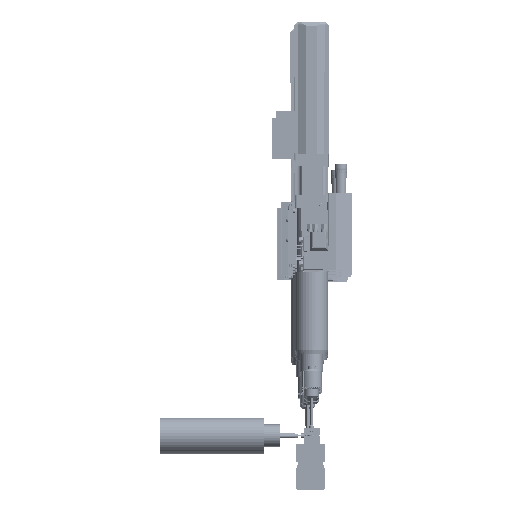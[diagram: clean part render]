
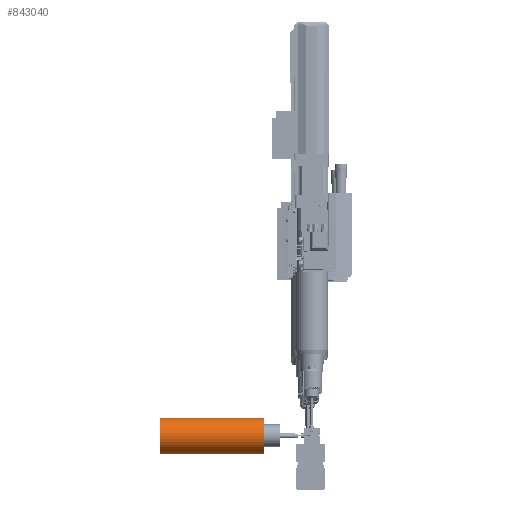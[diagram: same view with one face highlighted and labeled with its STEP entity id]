
A CAD part, left-side view. The second image highlights one B-rep face of the part: STEP entity #843040.
In plain terms, the highlighted cylindrical face has radius 40 mm (diameter 80 mm), a full revolution.
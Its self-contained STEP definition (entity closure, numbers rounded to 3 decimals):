
#843040 = ADVANCED_FACE('',(#843041),#843055,.T.);
#843041 = FACE_BOUND('',#843042,.F.);
#843042 = EDGE_LOOP('',(#843043,#843073,#843100,#843101));
#843043 = ORIENTED_EDGE('',*,*,#843044,.T.);
#843044 = EDGE_CURVE('',#843045,#843047,#843049,.T.);
#843045 = VERTEX_POINT('',#843046);
#843046 = CARTESIAN_POINT('',(1254.,5.,-22.7));
#843047 = VERTEX_POINT('',#843048);
#843048 = CARTESIAN_POINT('',(1254.,235.,-22.7));
#843049 = SEAM_CURVE('',#843050,(#843054,#843066),.PCURVE_S1.);
#843050 = LINE('',#843051,#843052);
#843051 = CARTESIAN_POINT('',(1254.,5.,-22.7));
#843052 = VECTOR('',#843053,1.);
#843053 = DIRECTION('',(0.,1.,0.));
#843054 = PCURVE('',#843055,#843060);
#843055 = CYLINDRICAL_SURFACE('',#843056,40.);
#843056 = AXIS2_PLACEMENT_3D('',#843057,#843058,#843059);
#843057 = CARTESIAN_POINT('',(1214.,5.,-22.7));
#843058 = DIRECTION('',(-0.,-1.,0.));
#843059 = DIRECTION('',(1.,0.,0.));
#843060 = DEFINITIONAL_REPRESENTATION('',(#843061),#843065);
#843061 = LINE('',#843062,#843063);
#843062 = CARTESIAN_POINT('',(-0.,0.));
#843063 = VECTOR('',#843064,1.);
#843064 = DIRECTION('',(-0.,-1.));
#843065 = ( GEOMETRIC_REPRESENTATION_CONTEXT(2) 
PARAMETRIC_REPRESENTATION_CONTEXT() REPRESENTATION_CONTEXT('2D SPACE',''
  ) );
#843066 = PCURVE('',#843055,#843067);
#843067 = DEFINITIONAL_REPRESENTATION('',(#843068),#843072);
#843068 = LINE('',#843069,#843070);
#843069 = CARTESIAN_POINT('',(-6.283,0.));
#843070 = VECTOR('',#843071,1.);
#843071 = DIRECTION('',(-0.,-1.));
#843072 = ( GEOMETRIC_REPRESENTATION_CONTEXT(2) 
PARAMETRIC_REPRESENTATION_CONTEXT() REPRESENTATION_CONTEXT('2D SPACE',''
  ) );
#843073 = ORIENTED_EDGE('',*,*,#843074,.T.);
#843074 = EDGE_CURVE('',#843047,#843047,#843075,.T.);
#843075 = SURFACE_CURVE('',#843076,(#843081,#843088),.PCURVE_S1.);
#843076 = CIRCLE('',#843077,40.);
#843077 = AXIS2_PLACEMENT_3D('',#843078,#843079,#843080);
#843078 = CARTESIAN_POINT('',(1214.,235.,-22.7));
#843079 = DIRECTION('',(-0.,1.,0.));
#843080 = DIRECTION('',(1.,0.,0.));
#843081 = PCURVE('',#843055,#843082);
#843082 = DEFINITIONAL_REPRESENTATION('',(#843083),#843087);
#843083 = LINE('',#843084,#843085);
#843084 = CARTESIAN_POINT('',(-0.,-230.));
#843085 = VECTOR('',#843086,1.);
#843086 = DIRECTION('',(-1.,0.));
#843087 = ( GEOMETRIC_REPRESENTATION_CONTEXT(2) 
PARAMETRIC_REPRESENTATION_CONTEXT() REPRESENTATION_CONTEXT('2D SPACE',''
  ) );
#843088 = PCURVE('',#843089,#843094);
#843089 = PLANE('',#843090);
#843090 = AXIS2_PLACEMENT_3D('',#843091,#843092,#843093);
#843091 = CARTESIAN_POINT('',(1214.,235.,-22.7));
#843092 = DIRECTION('',(0.,1.,0.));
#843093 = DIRECTION('',(1.,0.,0.));
#843094 = DEFINITIONAL_REPRESENTATION('',(#843095),#843099);
#843095 = CIRCLE('',#843096,40.);
#843096 = AXIS2_PLACEMENT_2D('',#843097,#843098);
#843097 = CARTESIAN_POINT('',(0.,0.));
#843098 = DIRECTION('',(1.,0.));
#843099 = ( GEOMETRIC_REPRESENTATION_CONTEXT(2) 
PARAMETRIC_REPRESENTATION_CONTEXT() REPRESENTATION_CONTEXT('2D SPACE',''
  ) );
#843100 = ORIENTED_EDGE('',*,*,#843044,.F.);
#843101 = ORIENTED_EDGE('',*,*,#843102,.F.);
#843102 = EDGE_CURVE('',#843045,#843045,#843103,.T.);
#843103 = SURFACE_CURVE('',#843104,(#843109,#843116),.PCURVE_S1.);
#843104 = CIRCLE('',#843105,40.);
#843105 = AXIS2_PLACEMENT_3D('',#843106,#843107,#843108);
#843106 = CARTESIAN_POINT('',(1214.,5.,-22.7));
#843107 = DIRECTION('',(-0.,1.,0.));
#843108 = DIRECTION('',(1.,0.,0.));
#843109 = PCURVE('',#843055,#843110);
#843110 = DEFINITIONAL_REPRESENTATION('',(#843111),#843115);
#843111 = LINE('',#843112,#843113);
#843112 = CARTESIAN_POINT('',(-0.,0.));
#843113 = VECTOR('',#843114,1.);
#843114 = DIRECTION('',(-1.,0.));
#843115 = ( GEOMETRIC_REPRESENTATION_CONTEXT(2) 
PARAMETRIC_REPRESENTATION_CONTEXT() REPRESENTATION_CONTEXT('2D SPACE',''
  ) );
#843116 = PCURVE('',#843117,#843122);
#843117 = PLANE('',#843118);
#843118 = AXIS2_PLACEMENT_3D('',#843119,#843120,#843121);
#843119 = CARTESIAN_POINT('',(1214.,5.,-22.7));
#843120 = DIRECTION('',(0.,1.,0.));
#843121 = DIRECTION('',(1.,0.,0.));
#843122 = DEFINITIONAL_REPRESENTATION('',(#843123),#843127);
#843123 = CIRCLE('',#843124,40.);
#843124 = AXIS2_PLACEMENT_2D('',#843125,#843126);
#843125 = CARTESIAN_POINT('',(0.,0.));
#843126 = DIRECTION('',(1.,0.));
#843127 = ( GEOMETRIC_REPRESENTATION_CONTEXT(2) 
PARAMETRIC_REPRESENTATION_CONTEXT() REPRESENTATION_CONTEXT('2D SPACE',''
  ) );
